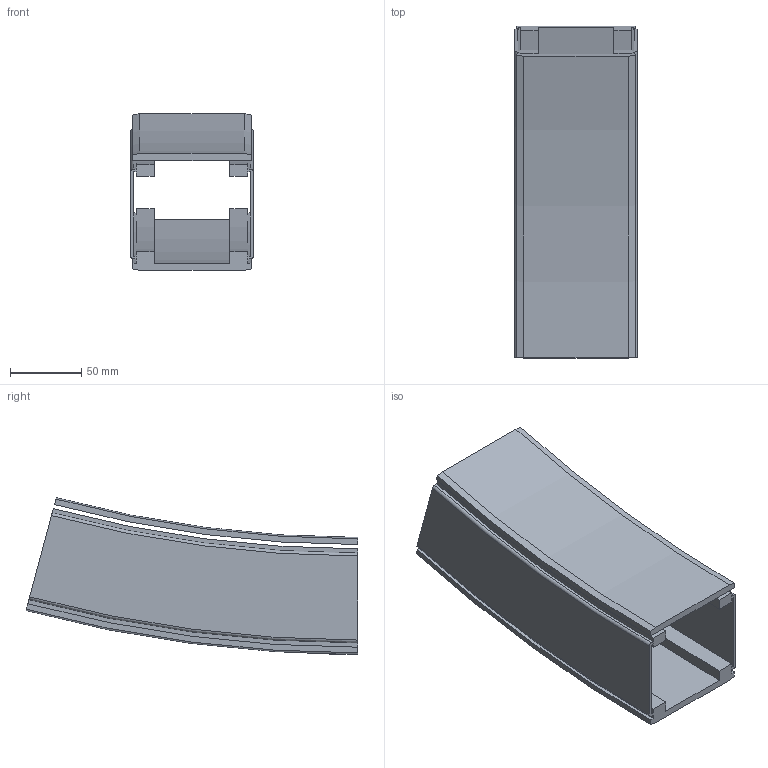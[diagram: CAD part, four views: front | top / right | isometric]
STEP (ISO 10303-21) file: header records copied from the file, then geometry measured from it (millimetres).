
FILE_DESCRIPTION(/* description */ ('VERTIKALKURVA S530 R860'),/* implementation_level */ '2;1');
FILE_NAME(/* name */ '530-5695+830-2000-NER-01.stp',/* time_stamp */ '2022-09-21T07:24:14+02:00',/* author */ ('Mathias.Dore'),/* organization */ ('CARRYLINE'),/* preprocessor_version */ 'ST-DEVELOPER v19.2',/* originating_system */ 'Autodesk Inventor 2023',/* authorisation */ '');
FILE_SCHEMA (('AUTOMOTIVE_DESIGN { 1 0 10303 214 3 1 1 }'));
Length unit declared in the file: millimetre
Products named in the file (1): 530-5695+830-2000-NER-01
Bounding box: 86 x 232.81 x 109.86 mm (x, y, z)
Volume: 333921.3 mm3; surface area: 164261.8 mm2
Topology: 2 solids, 2 shells, 87 faces, 234 edges, 156 vertices
Faces by surface type: plane 40, cylinder 25, bspline 14, cone 4, torus 4
Entity records: 7351 total; most frequent: CARTESIAN_POINT 5152, ORIENTED_EDGE 468, DIRECTION 408, EDGE_CURVE 234, VERTEX_POINT 156, AXIS2_PLACEMENT_3D 141, LINE 126, VECTOR 126
